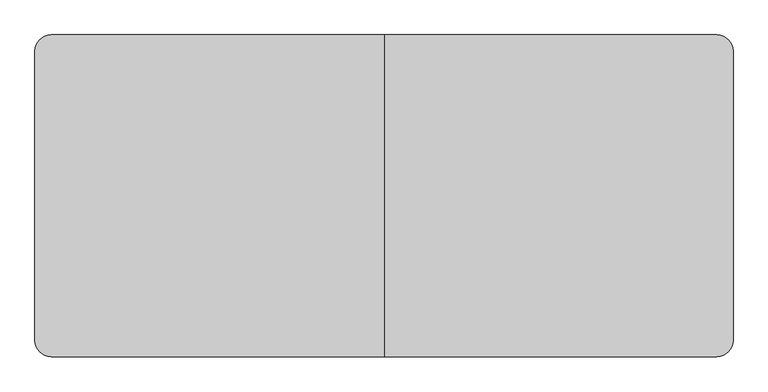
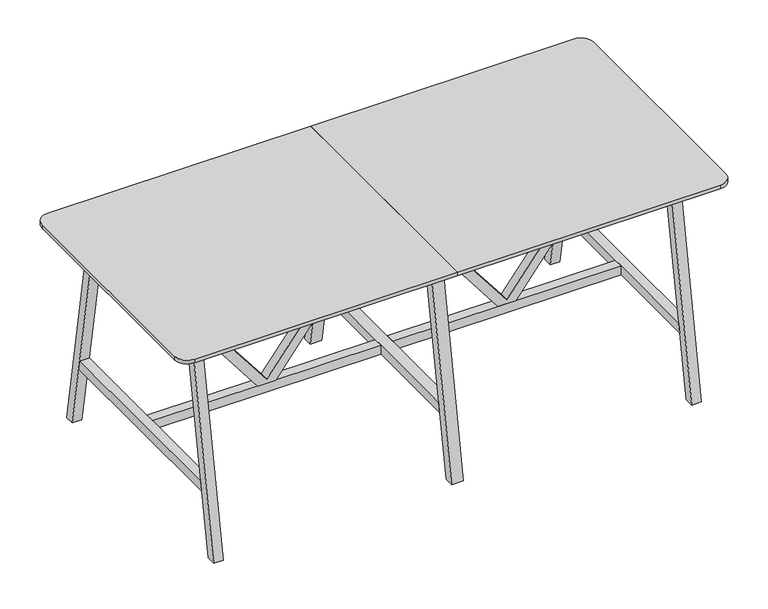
"""IFC4 building model written with IfcOpenShell, lengths in millimetres: furniture geometry, BDG_BossDesign_Tbls_AgentTables6Legs : AGE-HT-6L-2600-1200-3D."""

from ifc_helpers import new_model, si_unit, point, frame, frame_2d, origin, place, context, project, spatial, polyline, circle_curve, trimmed, segment, composite_curve, outline, extrude, source, transform, mapped, element, save


def furniture_5045bd6b(model_context):
    return source(origin(), model_context, "Body", "SweptSolid", [
        extrude(outline(polyline([(345.0, 524.0823957), (345.0, 608.4176043), (992.0, 1105.0), (1032.0, 1105.0), (1032.0, 1085.0), (365.0, 566.25), (1032.0, 47.5), (1032.0, 27.5), (992.0, 27.5), (345.0, 524.0823957)])), frame((0.0, -22.5000305, 0.0), z_axis=(0.0, 1.0, 0.0), x_axis=(0.0, 0.0, 1.0)), (0.0, 0.0, 1.0), 45.000061),
        extrude(outline(polyline([(345.0, -524.0823957), (992.0, -27.5), (1032.0, -27.5), (1032.0, -47.5), (365.0, -566.25), (1032.0, -1085.0), (1032.0, -1105.0), (992.0, -1105.0), (345.0, -608.4176043), (345.0, -524.0823957)])), frame((0.0, -22.5000305, 0.0), z_axis=(0.0, 1.0, 0.0), x_axis=(0.0, 0.0, 1.0)), (0.0, 0.0, 1.0), 45.000061),
        extrude(outline(polyline([(600.0, 0.0), (554.9999949, 0.0), (385.5, 970.0), (430.5000051, 970.0), (600.0, 0.0)])), frame((-27.5, 0.0, 0.0), z_axis=(1.0, 0.0, 0.0), x_axis=(0.0, 1.0, 0.0)), (0.0, 0.0, 1.0), 55.0),
        extrude(outline(polyline([(-600.0, 0.0), (-430.5000051, 970.0), (-385.5, 970.0), (-554.9999949, 0.0), (-600.0, 0.0)])), frame((-27.5, 0.0, 0.0), z_axis=(1.0, 0.0, 0.0), x_axis=(0.0, 1.0, 0.0)), (0.0, 0.0, 1.0), 55.0),
        extrude(outline(polyline([(502.5773161, 300.0), (-502.5773161, 300.0), (-494.7139143, 345.0), (494.7139143, 345.0), (502.5773161, 300.0)])), frame((-27.5, 0.0, 0.0), z_axis=(1.0, 0.0, 0.0), x_axis=(0.0, 1.0, 0.0)), (0.0, 0.0, 1.0), 55.0),
        extrude(outline(composite_curve([segment(polyline([(0.0, 600.0), (0.0, -600.0), (-1240.0, -600.0)]), True, "CONTINUOUS"), segment(trimmed(circle_curve(frame_2d((-1240.0, -540.0)), 60.0), [point((-1240.0, -600.0))], [point((-1300.0, -540.0))], False, "CARTESIAN"), True, "CONTINUOUS"), segment(polyline([(-1300.0, -540.0), (-1300.0, 540.0)]), True, "CONTINUOUS"), segment(trimmed(circle_curve(frame_2d((-1240.0, 540.0)), 60.0), [point((-1300.0, 540.0))], [point((-1240.0, 600.0))], False, "CARTESIAN"), True, "CONTINUOUS"), segment(polyline([(-1240.0, 600.0), (0.0, 600.0)]), True, "CONTINUOUS")], self_intersect=False)), frame((0.0, 0.0, 1032.0), z_axis=(0.0, 0.0, 1.0), x_axis=(1.0, 0.0, 0.0)), (0.0, 0.0, 1.0), 18.0),
        extrude(outline(polyline([(-494.7139143, 345.0), (494.7139143, 345.0), (502.5773161, 300.0), (-502.5773161, 300.0), (-494.7139143, 345.0)])), frame((1105.0, 0.0, 0.0), z_axis=(1.0, 0.0, 0.0), x_axis=(0.0, 1.0, 0.0)), (0.0, 0.0, 1.0), 45.0),
        extrude(outline(polyline([(600.0, 0.0), (554.9999949, 0.0), (385.5, 970.0), (430.5000051, 970.0), (600.0, 0.0)])), frame((-1150.0, 0.0, 0.0), z_axis=(1.0, 0.0, 0.0), x_axis=(0.0, 1.0, 0.0)), (0.0, 0.0, 1.0), 45.0),
        extrude(outline(polyline([(-600.0, 0.0), (-430.5000051, 970.0), (-385.5, 970.0), (-554.9999949, 0.0), (-600.0, 0.0)])), frame((-1150.0, 0.0, 0.0), z_axis=(1.0, 0.0, 0.0), x_axis=(0.0, 1.0, 0.0)), (0.0, 0.0, 1.0), 45.0),
        extrude(outline(polyline([(-494.7139143, 345.0), (494.7139143, 345.0), (502.5773161, 300.0), (-502.5773161, 300.0), (-494.7139143, 345.0)])), frame((-1150.0, 0.0, 0.0), z_axis=(1.0, 0.0, 0.0), x_axis=(0.0, 1.0, 0.0)), (0.0, 0.0, 1.0), 45.0),
        extrude(outline(polyline([(-426.6006165, 944.973938), (-404.2770691, 1032.0), (-379.5, 1032.0), (-401.8235474, 944.973938), (-426.6006165, 944.973938)])), frame((-1105.0, 0.0, 0.0), z_axis=(1.0, 0.0, 0.0), x_axis=(0.0, 1.0, 0.0)), (0.0, 0.0, 1.0), 2210.0),
        extrude(outline(polyline([(426.6006165, 944.973938), (401.8235474, 944.973938), (379.5, 1032.0), (404.2770691, 1032.0), (426.6006165, 944.973938)])), frame((-1105.0, 0.0, 0.0), z_axis=(1.0, 0.0, 0.0), x_axis=(0.0, 1.0, 0.0)), (0.0, 0.0, 1.0), 2210.0),
        extrude(outline(polyline([(599.7999878, 0.0), (554.7999827, 0.0), (385.5, 970.0), (430.5000051, 970.0), (599.7999878, 0.0)])), frame((1105.0, 0.0, 0.0), z_axis=(1.0, 0.0, 0.0), x_axis=(0.0, 1.0, 0.0)), (0.0, 0.0, 1.0), 45.0),
        extrude(outline(polyline([(-599.7999878, 0.0), (-430.5000051, 970.0), (-385.5, 970.0), (-554.7999827, 0.0), (-599.7999878, 0.0)])), frame((1105.0, 0.0, 0.0), z_axis=(1.0, 0.0, 0.0), x_axis=(0.0, 1.0, 0.0)), (0.0, 0.0, 1.0), 45.0),
        extrude(outline(polyline([(-27.5, 22.5000305), (-27.5, -22.5000305), (-1105.0, -22.5000305), (-1105.0, 22.5000305), (-27.5, 22.5000305)])), frame((0.0, 0.0, 300.0), z_axis=(0.0, 0.0, 1.0), x_axis=(1.0, 0.0, 0.0)), (0.0, 0.0, 1.0), 45.0),
        extrude(outline(polyline([(27.5, -22.5000305), (27.5, 22.5000305), (1105.0, 22.5000305), (1105.0, -22.5000305), (27.5, -22.5000305)])), frame((0.0, 0.0, 300.0), z_axis=(0.0, 0.0, 1.0), x_axis=(1.0, 0.0, 0.0)), (0.0, 0.0, 1.0), 45.0),
        extrude(outline(composite_curve([segment(trimmed(circle_curve(frame_2d((1240.0, 540.0)), 60.0), [point((1240.0, 600.0))], [point((1300.0, 540.0))], False, "CARTESIAN"), True, "CONTINUOUS"), segment(polyline([(1300.0, 540.0), (1300.0, -540.0)]), True, "CONTINUOUS"), segment(trimmed(circle_curve(frame_2d((1240.0, -540.0)), 60.0), [point((1300.0, -540.0))], [point((1240.0, -600.0))], False, "CARTESIAN"), True, "CONTINUOUS"), segment(polyline([(1240.0, -600.0), (0.0, -600.0), (0.0, 600.0), (1240.0, 600.0)]), True, "CONTINUOUS")], self_intersect=False)), frame((0.0, 0.0, 1032.0), z_axis=(0.0, 0.0, 1.0), x_axis=(1.0, 0.0, 0.0)), (0.0, 0.0, 1.0), 18.0),
    ])


if __name__ == "__main__":
    model = new_model("IFC4")
    model_context = context("Model", 3, world=origin())
    ifc_project = project(units=[si_unit("LENGTHUNIT", "METRE", prefix="MILLI")], contexts=[model_context])
    site = spatial("IfcSite", under=ifc_project)
    building = spatial("IfcBuilding", under=site)
    placement = place(None, origin())
    furniture_shape = furniture_5045bd6b(model_context)
    element("IfcFurniture", 1, ObjectType="BDG_BossDesign_Tbls_AgentTables6Legs : AGE-HT-6L-2600-1200-3D", at=placement, inside=building, context=model_context, shape_type="MappedRepresentation", body=[
        mapped(furniture_shape, transform((0.0, 0.0, 0.0), x_axis=(1.0, 0.0, 0.0), y_axis=(0.0, 1.0, 0.0), z_axis=(0.0, 0.0, 1.0))),
    ])
    save(model, "model.ifc")
